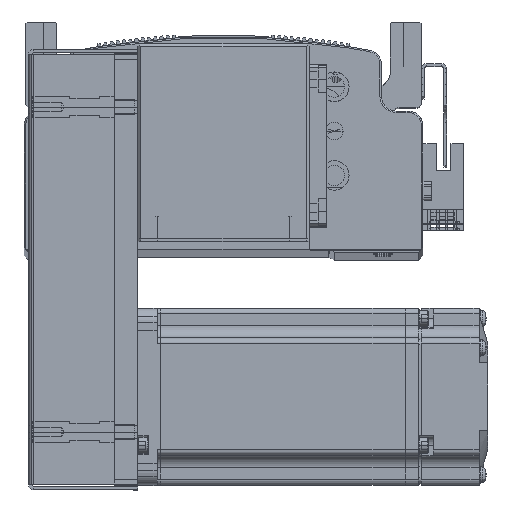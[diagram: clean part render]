
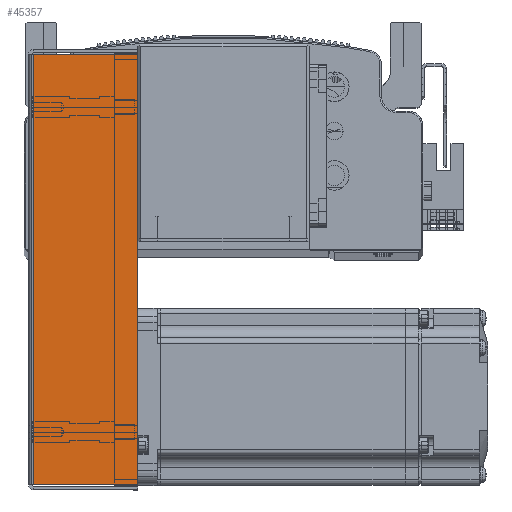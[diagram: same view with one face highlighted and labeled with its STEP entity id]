
A CAD part, top view. The second image highlights one B-rep face of the part: STEP entity #45357.
In plain terms, the highlighted planar face has unit normal (0, 0, 1) as drawn and (0, 0, -1) by its records, which use the part's own axes.
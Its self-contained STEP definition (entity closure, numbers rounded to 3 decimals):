
#10887 = EDGE_LOOP ( 'NONE', ( #75782, #75656, #75710, #75732 ) ) ;
#11084 = AXIS2_PLACEMENT_3D ( 'NONE', #15997, #15998, #16012 ) ;
#13531 = DIRECTION ( 'NONE',  ( 1., 0., 0. ) ) ;
#13545 = CARTESIAN_POINT ( 'NONE',  ( 0., 36., -34.5 ) ) ;
#13721 = CARTESIAN_POINT ( 'NONE',  ( -72.793, 0., -34.5 ) ) ;
#13727 = DIRECTION ( 'NONE',  ( 0., 1., 0. ) ) ;
#13765 = CARTESIAN_POINT ( 'NONE',  ( 72.793, 0., -34.5 ) ) ;
#13785 = DIRECTION ( 'NONE',  ( 1., 0., 0. ) ) ;
#13802 = DIRECTION ( 'NONE',  ( 0., 1., 0. ) ) ;
#13831 = CARTESIAN_POINT ( 'NONE',  ( 74.5, 0.737, -34.5 ) ) ;
#15997 = CARTESIAN_POINT ( 'NONE',  ( 0., 0., -34.5 ) ) ;
#15998 = DIRECTION ( 'NONE',  ( 0., 0., 1. ) ) ;
#16012 = DIRECTION ( 'NONE',  ( 0., -1., 0. ) ) ;
#16085 = PLANE ( 'NONE',  #11084 ) ;
#17311 = FACE_OUTER_BOUND ( 'NONE', #10887, .T. ) ;
#32563 = VECTOR ( 'NONE', #13531, 1000. ) ;
#32643 = LINE ( 'NONE', #13545, #32563 ) ;
#32727 = LINE ( 'NONE', #13721, #32767 ) ;
#32767 = VECTOR ( 'NONE', #13727, 1000. ) ;
#32828 = LINE ( 'NONE', #13831, #32845 ) ;
#32834 = VECTOR ( 'NONE', #13802, 1000. ) ;
#32845 = VECTOR ( 'NONE', #13785, 1000. ) ;
#32891 = LINE ( 'NONE', #13765, #32834 ) ;
#35576 = VERTEX_POINT ( 'NONE', #84624 ) ;
#35601 = VERTEX_POINT ( 'NONE', #84626 ) ;
#35624 = VERTEX_POINT ( 'NONE', #84708 ) ;
#35655 = VERTEX_POINT ( 'NONE', #84727 ) ;
#45357 = ADVANCED_FACE ( 'NONE', ( #17311 ), #16085, .F. ) ;
#75656 = ORIENTED_EDGE ( 'NONE', *, *, #80277, .T. ) ;
#75710 = ORIENTED_EDGE ( 'NONE', *, *, #80209, .T. ) ;
#75732 = ORIENTED_EDGE ( 'NONE', *, *, #80296, .F. ) ;
#75782 = ORIENTED_EDGE ( 'NONE', *, *, #80299, .F. ) ;
#80209 = EDGE_CURVE ( 'NONE', #35601, #35624, #32643, .T. ) ;
#80277 = EDGE_CURVE ( 'NONE', #35576, #35601, #32727, .T. ) ;
#80296 = EDGE_CURVE ( 'NONE', #35655, #35624, #32891, .T. ) ;
#80299 = EDGE_CURVE ( 'NONE', #35576, #35655, #32828, .T. ) ;
#84624 = CARTESIAN_POINT ( 'NONE',  ( -72.793, 0.737, -34.5 ) ) ;
#84626 = CARTESIAN_POINT ( 'NONE',  ( -72.793, 36., -34.5 ) ) ;
#84708 = CARTESIAN_POINT ( 'NONE',  ( 72.793, 36., -34.5 ) ) ;
#84727 = CARTESIAN_POINT ( 'NONE',  ( 72.793, 0.737, -34.5 ) ) ;
